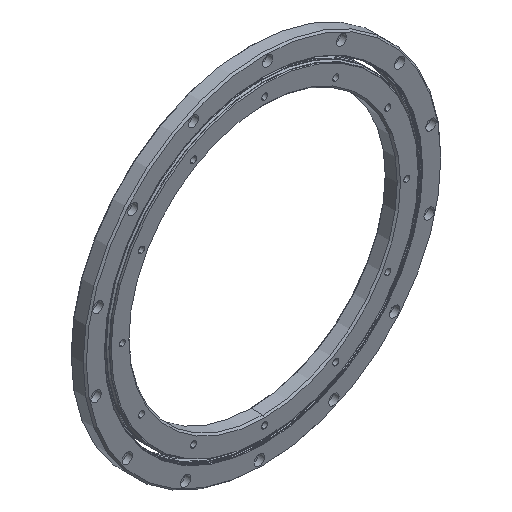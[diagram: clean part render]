
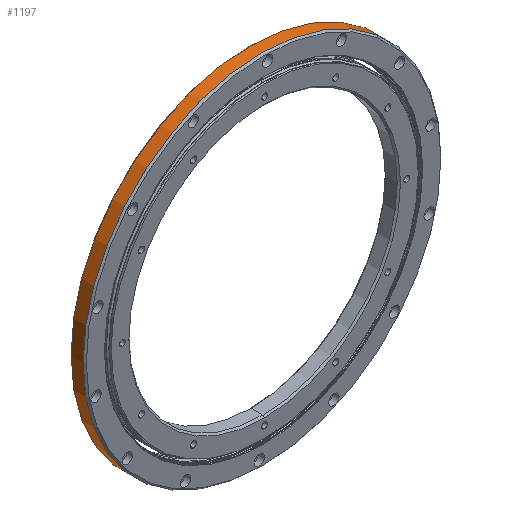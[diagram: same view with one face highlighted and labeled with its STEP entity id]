
A CAD part, isometric view. The second image highlights one B-rep face of the part: STEP entity #1197.
In plain terms, the highlighted cylindrical face has radius 165.1 mm (diameter 330.2 mm), a partial arc.
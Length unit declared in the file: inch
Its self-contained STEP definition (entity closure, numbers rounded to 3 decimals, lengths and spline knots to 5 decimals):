
#13 = VERTEX_POINT ( 'NONE', #3749 ) ;
#19 = VERTEX_POINT ( 'NONE', #6103 ) ;
#49 = DIRECTION ( 'NONE',  ( 0., 1., 0. ) ) ;
#202 = ORIENTED_EDGE ( 'NONE', *, *, #5948, .T. ) ;
#376 = VECTOR ( 'NONE', #1964, 39.37008 ) ;
#387 = VERTEX_POINT ( 'NONE', #1873 ) ;
#669 = EDGE_CURVE ( 'NONE', #19, #13, #1977, .T. ) ;
#685 = ORIENTED_EDGE ( 'NONE', *, *, #4072, .F. ) ;
#991 = VERTEX_POINT ( 'NONE', #4463 ) ;
#1176 = ORIENTED_EDGE ( 'NONE', *, *, #5703, .T. ) ;
#1197 = ADVANCED_FACE ( 'NONE', ( #3645 ), #2086, .T. ) ;
#1457 = AXIS2_PLACEMENT_3D ( 'NONE', #5523, #49, #4218 ) ;
#1465 = DIRECTION ( 'NONE',  ( 0., -1., 0. ) ) ;
#1507 = CARTESIAN_POINT ( 'NONE',  ( 0., 0.5315, 0. ) ) ;
#1870 = ORIENTED_EDGE ( 'NONE', *, *, #669, .T. ) ;
#1873 = CARTESIAN_POINT ( 'NONE',  ( 0., 0.5315, 6.5 ) ) ;
#1964 = DIRECTION ( 'NONE',  ( 0., -1., 0. ) ) ;
#1977 = CIRCLE ( 'NONE', #1457, 6.5 ) ;
#1986 = DIRECTION ( 'NONE',  ( 0., 0., -1. ) ) ;
#2086 = CYLINDRICAL_SURFACE ( 'NONE', #3154, 6.5 ) ;
#2102 = LINE ( 'NONE', #5029, #3360 ) ;
#2676 = DIRECTION ( 'NONE',  ( 0., -1., 0. ) ) ;
#2779 = AXIS2_PLACEMENT_3D ( 'NONE', #1507, #4822, #1986 ) ;
#3154 = AXIS2_PLACEMENT_3D ( 'NONE', #4704, #1465, #4806 ) ;
#3360 = VECTOR ( 'NONE', #2676, 39.37008 ) ;
#3645 = FACE_OUTER_BOUND ( 'NONE', #4948, .T. ) ;
#3749 = CARTESIAN_POINT ( 'NONE',  ( 0., 0.09843, 6.5 ) ) ;
#4072 = EDGE_CURVE ( 'NONE', #387, #13, #2102, .T. ) ;
#4218 = DIRECTION ( 'NONE',  ( 0., 0., -1. ) ) ;
#4232 = LINE ( 'NONE', #4781, #376 ) ;
#4463 = CARTESIAN_POINT ( 'NONE',  ( 0., 0.5315, -6.5 ) ) ;
#4704 = CARTESIAN_POINT ( 'NONE',  ( 0., 0., 0. ) ) ;
#4781 = CARTESIAN_POINT ( 'NONE',  ( 0., 0., -6.5 ) ) ;
#4806 = DIRECTION ( 'NONE',  ( 0., 0., -1. ) ) ;
#4822 = DIRECTION ( 'NONE',  ( 0., -1., 0. ) ) ;
#4903 = CIRCLE ( 'NONE', #2779, 6.5 ) ;
#4948 = EDGE_LOOP ( 'NONE', ( #685, #1176, #202, #1870 ) ) ;
#5029 = CARTESIAN_POINT ( 'NONE',  ( 0., 0., 6.5 ) ) ;
#5523 = CARTESIAN_POINT ( 'NONE',  ( 0., 0.09843, 0. ) ) ;
#5703 = EDGE_CURVE ( 'NONE', #387, #991, #4903, .T. ) ;
#5948 = EDGE_CURVE ( 'NONE', #991, #19, #4232, .T. ) ;
#6103 = CARTESIAN_POINT ( 'NONE',  ( 0., 0.09843, -6.5 ) ) ;
